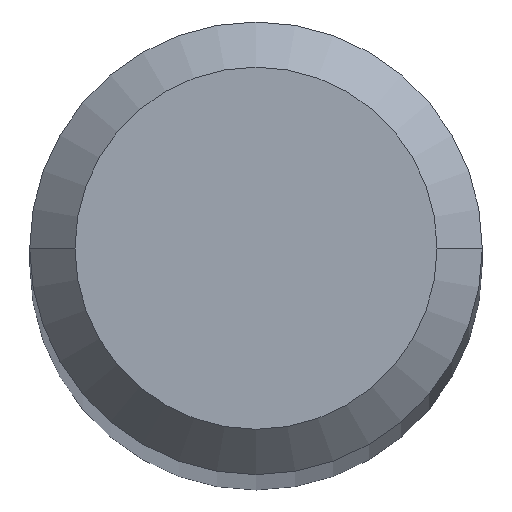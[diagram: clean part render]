
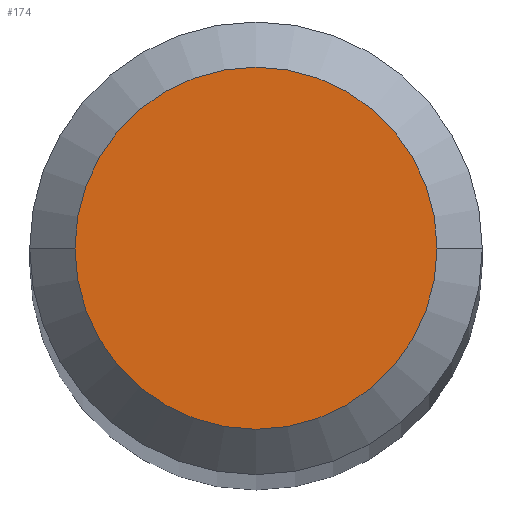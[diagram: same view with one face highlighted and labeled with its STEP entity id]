
A CAD part, top view. The second image highlights one B-rep face of the part: STEP entity #174.
In plain terms, the highlighted planar face has unit normal (0, 0, 1).
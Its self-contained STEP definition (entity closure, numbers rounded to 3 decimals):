
#1 = CARTESIAN_POINT ( 'NONE',  ( 0., 1., 0. ) ) ;
#20 = DIRECTION ( 'NONE',  ( 0., 0., -1. ) ) ;
#21 = DIRECTION ( 'NONE',  ( -1., 0., 0. ) ) ;
#23 = DIRECTION ( 'NONE',  ( -1., 0., 0. ) ) ;
#48 = AXIS2_PLACEMENT_3D ( 'NONE', #102, #20, #21 ) ;
#71 = CARTESIAN_POINT ( 'NONE',  ( -1., 0., 0. ) ) ;
#72 = PLANE ( 'NONE',  #237 ) ;
#101 = DIRECTION ( 'NONE',  ( 1., 0., 0. ) ) ;
#102 = CARTESIAN_POINT ( 'NONE',  ( 0., 0., 0. ) ) ;
#118 = VERTEX_POINT ( 'NONE', #146 ) ;
#134 = EDGE_CURVE ( 'NONE', #118, #137, #135, .T. ) ;
#135 = CIRCLE ( 'NONE', #48, 1. ) ;
#137 = VERTEX_POINT ( 'NONE', #71 ) ;
#146 = CARTESIAN_POINT ( 'NONE',  ( 1., 0., 0. ) ) ;
#147 = ORIENTED_EDGE ( 'NONE', *, *, #134, .F. ) ;
#173 = DIRECTION ( 'NONE',  ( 0., 0., 1. ) ) ;
#174 = ADVANCED_FACE ( 'NONE', ( #252 ), #72, .T. ) ;
#179 = EDGE_CURVE ( 'NONE', #137, #118, #207, .T. ) ;
#207 = CIRCLE ( 'NONE', #314, 1. ) ;
#237 = AXIS2_PLACEMENT_3D ( 'NONE', #1, #173, #101 ) ;
#241 = ORIENTED_EDGE ( 'NONE', *, *, #179, .F. ) ;
#252 = FACE_OUTER_BOUND ( 'NONE', #327, .T. ) ;
#270 = DIRECTION ( 'NONE',  ( 0., 0., -1. ) ) ;
#296 = CARTESIAN_POINT ( 'NONE',  ( 0., 0., 0. ) ) ;
#314 = AXIS2_PLACEMENT_3D ( 'NONE', #296, #270, #23 ) ;
#327 = EDGE_LOOP ( 'NONE', ( #241, #147 ) ) ;
